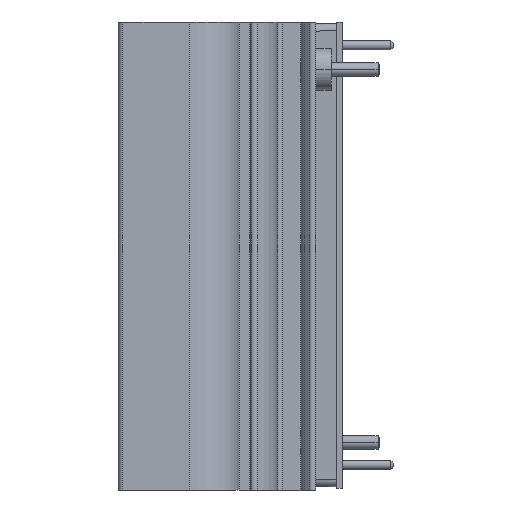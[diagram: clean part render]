
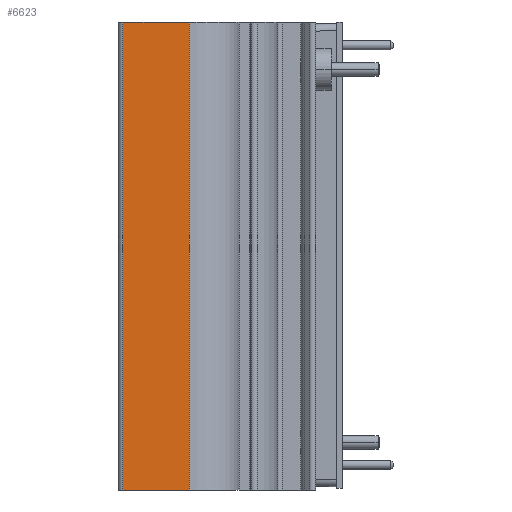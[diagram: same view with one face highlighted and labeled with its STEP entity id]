
A CAD part, left-side view. The second image highlights one B-rep face of the part: STEP entity #6623.
In plain terms, the highlighted planar face has unit normal (-1, 0, 0).
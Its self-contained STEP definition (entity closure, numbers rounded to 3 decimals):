
#512 = DIRECTION ( 'NONE',  ( 0., 0., 1. ) ) ;
#540 = CARTESIAN_POINT ( 'NONE',  ( -20.32, 23.9, -25.6 ) ) ;
#1064 = CARTESIAN_POINT ( 'NONE',  ( -20.32, 16.687, -25.6 ) ) ;
#1089 = VERTEX_POINT ( 'NONE', #2146 ) ;
#1101 = DIRECTION ( 'NONE',  ( 0., -1., 0. ) ) ;
#1238 = ORIENTED_EDGE ( 'NONE', *, *, #6636, .T. ) ;
#1340 = DIRECTION ( 'NONE',  ( 0., 0., 1. ) ) ;
#1360 = CARTESIAN_POINT ( 'NONE',  ( -20.32, 16.687, 25.4 ) ) ;
#1593 = EDGE_CURVE ( 'NONE', #4673, #2656, #6733, .T. ) ;
#1605 = PLANE ( 'NONE',  #5814 ) ;
#1698 = CARTESIAN_POINT ( 'NONE',  ( -20.32, 23.9, -25.6 ) ) ;
#2146 = CARTESIAN_POINT ( 'NONE',  ( -20.32, 23.9, 25.4 ) ) ;
#2633 = CARTESIAN_POINT ( 'NONE',  ( -20.32, 23.9, 25.4 ) ) ;
#2655 = ORIENTED_EDGE ( 'NONE', *, *, #5868, .F. ) ;
#2656 = VERTEX_POINT ( 'NONE', #5569 ) ;
#2863 = LINE ( 'NONE', #1064, #3302 ) ;
#3215 = DIRECTION ( 'NONE',  ( 0., -1., 0. ) ) ;
#3238 = LINE ( 'NONE', #6450, #5206 ) ;
#3302 = VECTOR ( 'NONE', #512, 1000. ) ;
#3586 = ORIENTED_EDGE ( 'NONE', *, *, #7002, .F. ) ;
#4498 = CARTESIAN_POINT ( 'NONE',  ( -20.32, 23.9, -25.6 ) ) ;
#4673 = VERTEX_POINT ( 'NONE', #540 ) ;
#4964 = LINE ( 'NONE', #2633, #7348 ) ;
#5055 = DIRECTION ( 'NONE',  ( -1., 0., 0. ) ) ;
#5206 = VECTOR ( 'NONE', #1340, 1000. ) ;
#5318 = EDGE_LOOP ( 'NONE', ( #3586, #2655, #6961, #1238 ) ) ;
#5569 = CARTESIAN_POINT ( 'NONE',  ( -20.32, 16.687, -25.6 ) ) ;
#5814 = AXIS2_PLACEMENT_3D ( 'NONE', #4498, #5055, #6769 ) ;
#5868 = EDGE_CURVE ( 'NONE', #4673, #1089, #3238, .T. ) ;
#6450 = CARTESIAN_POINT ( 'NONE',  ( -20.32, 23.9, -25.6 ) ) ;
#6478 = VECTOR ( 'NONE', #1101, 1000. ) ;
#6623 = ADVANCED_FACE ( 'NONE', ( #7021 ), #1605, .T. ) ;
#6636 = EDGE_CURVE ( 'NONE', #2656, #6919, #2863, .T. ) ;
#6733 = LINE ( 'NONE', #1698, #6478 ) ;
#6769 = DIRECTION ( 'NONE',  ( 0., 0., 1. ) ) ;
#6919 = VERTEX_POINT ( 'NONE', #1360 ) ;
#6961 = ORIENTED_EDGE ( 'NONE', *, *, #1593, .T. ) ;
#7002 = EDGE_CURVE ( 'NONE', #1089, #6919, #4964, .T. ) ;
#7021 = FACE_OUTER_BOUND ( 'NONE', #5318, .T. ) ;
#7348 = VECTOR ( 'NONE', #3215, 1000. ) ;
